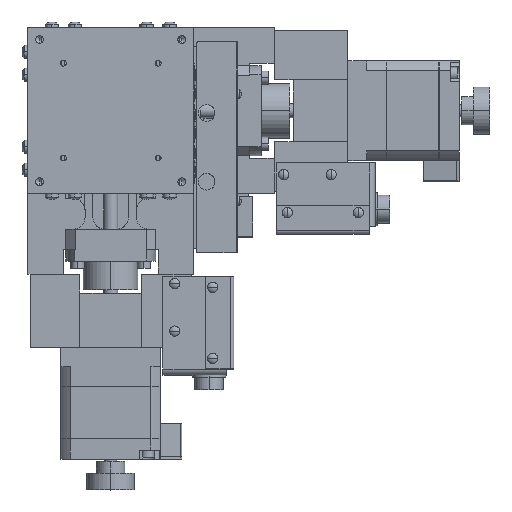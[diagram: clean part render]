
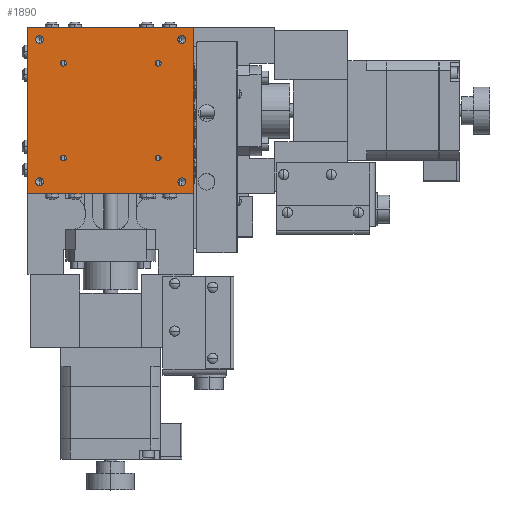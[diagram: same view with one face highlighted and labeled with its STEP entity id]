
A CAD part, top view. The second image highlights one B-rep face of the part: STEP entity #1890.
In plain terms, the highlighted planar face has unit normal (0, 0, 1).
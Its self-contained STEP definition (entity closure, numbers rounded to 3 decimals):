
#1890=ADVANCED_FACE('',(#5180,#5181,#5182,#5183,#5184,#5185,#5186,#5187,#5188),#5189,.T.);
#5180=FACE_BOUND('',#8630,.T.);
#5181=FACE_BOUND('',#8631,.T.);
#5182=FACE_BOUND('',#8632,.T.);
#5183=FACE_BOUND('',#8633,.T.);
#5184=FACE_BOUND('',#8634,.T.);
#5185=FACE_BOUND('',#8635,.T.);
#5186=FACE_BOUND('',#8636,.T.);
#5187=FACE_BOUND('',#8637,.T.);
#5188=FACE_OUTER_BOUND('',#8638,.T.);
#5189=PLANE('',#8639);
#8630=EDGE_LOOP('',(#21340,#21341));
#8631=EDGE_LOOP('',(#21342,#21343));
#8632=EDGE_LOOP('',(#21344,#21345));
#8633=EDGE_LOOP('',(#21346,#21347));
#8634=EDGE_LOOP('',(#21348,#21349));
#8635=EDGE_LOOP('',(#21350,#21351));
#8636=EDGE_LOOP('',(#21352,#21353));
#8637=EDGE_LOOP('',(#21354,#21355));
#8638=EDGE_LOOP('',(#21356,#21357,#21358,#21359));
#8639=AXIS2_PLACEMENT_3D('',#21360,#21361,#21362);
#21340=ORIENTED_EDGE('',*,*,#26036,.T.);
#21341=ORIENTED_EDGE('',*,*,#26477,.T.);
#21342=ORIENTED_EDGE('',*,*,#26028,.T.);
#21343=ORIENTED_EDGE('',*,*,#26479,.T.);
#21344=ORIENTED_EDGE('',*,*,#26024,.T.);
#21345=ORIENTED_EDGE('',*,*,#26481,.T.);
#21346=ORIENTED_EDGE('',*,*,#26020,.T.);
#21347=ORIENTED_EDGE('',*,*,#26483,.T.);
#21348=ORIENTED_EDGE('',*,*,#26136,.T.);
#21349=ORIENTED_EDGE('',*,*,#26141,.T.);
#21350=ORIENTED_EDGE('',*,*,#26001,.T.);
#21351=ORIENTED_EDGE('',*,*,#26485,.T.);
#21352=ORIENTED_EDGE('',*,*,#26127,.T.);
#21353=ORIENTED_EDGE('',*,*,#26154,.T.);
#21354=ORIENTED_EDGE('',*,*,#25926,.T.);
#21355=ORIENTED_EDGE('',*,*,#26486,.T.);
#21356=ORIENTED_EDGE('',*,*,#26487,.F.);
#21357=ORIENTED_EDGE('',*,*,#26488,.F.);
#21358=ORIENTED_EDGE('',*,*,#26489,.F.);
#21359=ORIENTED_EDGE('',*,*,#26490,.F.);
#21360=CARTESIAN_POINT('',(0.,0.,42.));
#21361=DIRECTION('',(0.,0.,1.0));
#21362=DIRECTION('',(0.,1.0,0.));
#25926=EDGE_CURVE('',#32567,#32571,#32573,.T.);
#26001=EDGE_CURVE('',#32700,#32716,#32718,.T.);
#26020=EDGE_CURVE('',#32736,#32748,#32750,.T.);
#26024=EDGE_CURVE('',#32752,#32756,#32758,.T.);
#26028=EDGE_CURVE('',#32760,#32764,#32766,.T.);
#26036=EDGE_CURVE('',#32768,#32780,#32782,.T.);
#26127=EDGE_CURVE('',#32949,#32960,#32962,.T.);
#26136=EDGE_CURVE('',#32971,#32973,#32975,.T.);
#26141=EDGE_CURVE('',#32973,#32971,#32982,.T.);
#26154=EDGE_CURVE('',#32960,#32949,#33002,.T.);
#26477=EDGE_CURVE('',#32780,#32768,#33509,.T.);
#26479=EDGE_CURVE('',#32764,#32760,#33511,.T.);
#26481=EDGE_CURVE('',#32756,#32752,#33513,.T.);
#26483=EDGE_CURVE('',#32748,#32736,#33515,.T.);
#26485=EDGE_CURVE('',#32716,#32700,#33517,.T.);
#26486=EDGE_CURVE('',#32571,#32567,#33518,.T.);
#26487=EDGE_CURVE('',#33519,#33520,#33521,.T.);
#26488=EDGE_CURVE('',#33522,#33519,#33523,.T.);
#26489=EDGE_CURVE('',#33524,#33522,#33525,.T.);
#26490=EDGE_CURVE('',#33520,#33524,#33526,.T.);
#32567=VERTEX_POINT('',#42289);
#32571=VERTEX_POINT('',#42294);
#32573=CIRCLE('',#42297,1.65);
#32700=VERTEX_POINT('',#42456);
#32716=VERTEX_POINT('',#42475);
#32718=CIRCLE('',#42478,1.65);
#32736=VERTEX_POINT('',#42503);
#32748=VERTEX_POINT('',#42518);
#32750=CIRCLE('',#42521,1.25);
#32752=VERTEX_POINT('',#42523);
#32756=VERTEX_POINT('',#42528);
#32758=CIRCLE('',#42531,1.25);
#32760=VERTEX_POINT('',#42533);
#32764=VERTEX_POINT('',#42538);
#32766=CIRCLE('',#42541,1.25);
#32768=VERTEX_POINT('',#42543);
#32780=VERTEX_POINT('',#42558);
#32782=CIRCLE('',#42561,1.25);
#32949=VERTEX_POINT('',#42760);
#32960=VERTEX_POINT('',#42774);
#32962=CIRCLE('',#42777,1.65);
#32971=VERTEX_POINT('',#42790);
#32973=VERTEX_POINT('',#42793);
#32975=CIRCLE('',#42796,1.65);
#32982=CIRCLE('',#42816,1.65);
#33002=CIRCLE('',#42866,1.65);
#33509=CIRCLE('',#43603,1.25);
#33511=CIRCLE('',#43605,1.25);
#33513=CIRCLE('',#43607,1.25);
#33515=CIRCLE('',#43609,1.25);
#33517=CIRCLE('',#43611,1.65);
#33518=CIRCLE('',#43612,1.65);
#33519=VERTEX_POINT('',#43613);
#33520=VERTEX_POINT('',#43614);
#33521=LINE('',#43615,#43616);
#33522=VERTEX_POINT('',#43617);
#33523=LINE('',#43618,#43619);
#33524=VERTEX_POINT('',#43620);
#33525=LINE('',#43621,#43622);
#33526=LINE('',#43623,#43624);
#42289=CARTESIAN_POINT('',(30.,31.65,42.));
#42294=CARTESIAN_POINT('',(30.,28.35,42.));
#42297=AXIS2_PLACEMENT_3D('',#50150,#50151,#50152);
#42456=CARTESIAN_POINT('',(-30.,-28.35,42.));
#42475=CARTESIAN_POINT('',(-30.,-31.65,42.));
#42478=AXIS2_PLACEMENT_3D('',#50322,#50323,#50324);
#42503=CARTESIAN_POINT('',(20.,21.25,42.));
#42518=CARTESIAN_POINT('',(20.,18.75,42.));
#42521=AXIS2_PLACEMENT_3D('',#50357,#50358,#50359);
#42523=CARTESIAN_POINT('',(-20.,21.25,42.));
#42528=CARTESIAN_POINT('',(-20.,18.75,42.));
#42531=AXIS2_PLACEMENT_3D('',#50365,#50366,#50367);
#42533=CARTESIAN_POINT('',(-20.,-18.75,42.));
#42538=CARTESIAN_POINT('',(-20.,-21.25,42.));
#42541=AXIS2_PLACEMENT_3D('',#50373,#50374,#50375);
#42543=CARTESIAN_POINT('',(20.,-18.75,42.));
#42558=CARTESIAN_POINT('',(20.,-21.25,42.));
#42561=AXIS2_PLACEMENT_3D('',#50389,#50390,#50391);
#42760=CARTESIAN_POINT('',(-30.,31.65,42.));
#42774=CARTESIAN_POINT('',(-30.,28.35,42.));
#42777=AXIS2_PLACEMENT_3D('',#50590,#50591,#50592);
#42790=CARTESIAN_POINT('',(30.,-28.35,42.));
#42793=CARTESIAN_POINT('',(30.,-31.65,42.));
#42796=AXIS2_PLACEMENT_3D('',#50605,#50606,#50607);
#42816=AXIS2_PLACEMENT_3D('',#50613,#50614,#50615);
#42866=AXIS2_PLACEMENT_3D('',#50630,#50631,#50632);
#43603=AXIS2_PLACEMENT_3D('',#51139,#51140,#51141);
#43605=AXIS2_PLACEMENT_3D('',#51145,#51146,#51147);
#43607=AXIS2_PLACEMENT_3D('',#51151,#51152,#51153);
#43609=AXIS2_PLACEMENT_3D('',#51157,#51158,#51159);
#43611=AXIS2_PLACEMENT_3D('',#51163,#51164,#51165);
#43612=AXIS2_PLACEMENT_3D('',#51166,#51167,#51168);
#43613=CARTESIAN_POINT('',(35.,35.,42.));
#43614=CARTESIAN_POINT('',(35.,-35.,42.));
#43615=CARTESIAN_POINT('',(35.,0.,42.));
#43616=VECTOR('',#51169,1000.0);
#43617=CARTESIAN_POINT('',(-35.,35.,42.));
#43618=CARTESIAN_POINT('',(0.,35.,42.));
#43619=VECTOR('',#51170,1000.0);
#43620=CARTESIAN_POINT('',(-35.,-35.0,42.));
#43621=CARTESIAN_POINT('',(-35.,0.,42.));
#43622=VECTOR('',#51171,1000.0);
#43623=CARTESIAN_POINT('',(0.,-35.,42.));
#43624=VECTOR('',#51172,1000.0);
#50150=CARTESIAN_POINT('',(30.,30.,42.));
#50151=DIRECTION('',(0.,0.,-1.0));
#50152=DIRECTION('',(0.,1.0,0.));
#50322=CARTESIAN_POINT('',(-30.,-30.0,42.));
#50323=DIRECTION('',(0.,0.,-1.0));
#50324=DIRECTION('',(0.,1.0,0.));
#50357=CARTESIAN_POINT('',(20.,20.,42.));
#50358=DIRECTION('',(0.,0.,-1.0));
#50359=DIRECTION('',(0.,1.0,0.));
#50365=CARTESIAN_POINT('',(-20.,20.,42.));
#50366=DIRECTION('',(0.,0.,-1.0));
#50367=DIRECTION('',(0.,1.0,0.));
#50373=CARTESIAN_POINT('',(-20.,-20.,42.));
#50374=DIRECTION('',(0.,0.,-1.0));
#50375=DIRECTION('',(0.,1.0,0.));
#50389=CARTESIAN_POINT('',(20.,-20.,42.));
#50390=DIRECTION('',(0.,0.,-1.0));
#50391=DIRECTION('',(0.,1.0,0.));
#50590=CARTESIAN_POINT('',(-30.,30.,42.));
#50591=DIRECTION('',(0.,0.,-1.0));
#50592=DIRECTION('',(0.,1.0,0.));
#50605=CARTESIAN_POINT('',(30.,-30.,42.));
#50606=DIRECTION('',(0.,0.,-1.0));
#50607=DIRECTION('',(0.,1.0,0.));
#50613=CARTESIAN_POINT('',(30.,-30.,42.));
#50614=DIRECTION('',(0.,0.,-1.0));
#50615=DIRECTION('',(0.,1.0,0.));
#50630=CARTESIAN_POINT('',(-30.,30.,42.));
#50631=DIRECTION('',(0.,0.,-1.0));
#50632=DIRECTION('',(0.,1.0,0.));
#51139=CARTESIAN_POINT('',(20.,-20.,42.));
#51140=DIRECTION('',(0.,0.,-1.0));
#51141=DIRECTION('',(0.,1.0,0.));
#51145=CARTESIAN_POINT('',(-20.,-20.,42.));
#51146=DIRECTION('',(0.,0.,-1.0));
#51147=DIRECTION('',(0.,1.0,0.));
#51151=CARTESIAN_POINT('',(-20.,20.,42.));
#51152=DIRECTION('',(0.,0.,-1.0));
#51153=DIRECTION('',(0.,1.0,0.));
#51157=CARTESIAN_POINT('',(20.,20.,42.));
#51158=DIRECTION('',(0.,0.,-1.0));
#51159=DIRECTION('',(0.,1.0,0.));
#51163=CARTESIAN_POINT('',(-30.,-30.0,42.));
#51164=DIRECTION('',(0.,0.,-1.0));
#51165=DIRECTION('',(0.,1.0,0.));
#51166=CARTESIAN_POINT('',(30.,30.,42.));
#51167=DIRECTION('',(0.,0.,-1.0));
#51168=DIRECTION('',(0.,1.0,0.));
#51169=DIRECTION('',(0.,-1.0,0.));
#51170=DIRECTION('',(1.0,0.,0.));
#51171=DIRECTION('',(0.,1.0,0.));
#51172=DIRECTION('',(-1.0,0.,0.));
